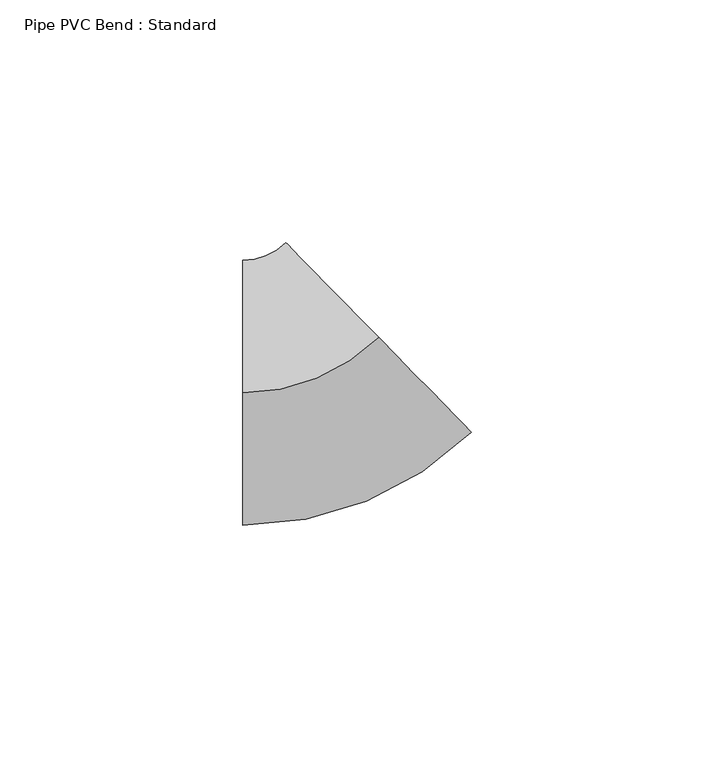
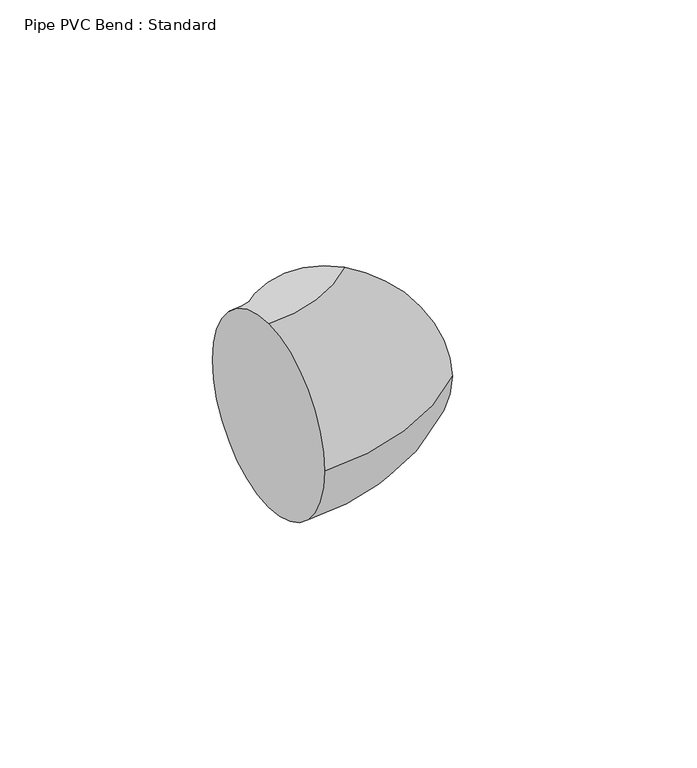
"""IFC4 building model written with IfcOpenShell, lengths in millimetres: pipe fitting geometry, Pipe PVC Bend : Standard."""

from ifc_helpers import new_model, si_unit, point, frame, origin, place, context, project, spatial, circle_curve, ellipse_curve, trimmed, source, transform, mapped, element, save
from ifc_brep_helpers import plane_surface, revolved_surface, advanced_brep


def pipe_pvc_bend_standard_81afda98(model_context):
    return source(origin(), model_context, "Body", "AdvancedBrep", [
        advanced_brep(
        [(-16.3271207, 0.0, 27.305), (-16.3271207, 27.305, 0.0), (-16.3271207, 0.0, -27.305), (-16.3271207, -27.305, 0.0), (11.6646048, 11.424179, 27.305), (30.7700682, -8.0833654, 0.0), (11.6646048, 11.424179, -27.305), (-7.4408587, 30.9317235, 0.0)],
        [
            (0, 1, circle_curve(frame((-16.3271207, 0.0, 0.0), z_axis=(-1.0, 0.0, 0.0), x_axis=(0.0, 1.0, 0.0)), 27.305)),
            (1, 2, circle_curve(frame((-16.3271207, 0.0, 0.0), z_axis=(-1.0, 0.0, 0.0), x_axis=(0.0, 1.0, 0.0)), 27.305)),
            (2, 3, circle_curve(frame((-16.3271207, 0.0, 0.0), z_axis=(-1.0, 0.0, 0.0), x_axis=(0.0, 1.0, 0.0)), 27.305)),
            (3, 0, circle_curve(frame((-16.3271207, 0.0, 0.0), z_axis=(-1.0, 0.0, 0.0), x_axis=(0.0, 1.0, 0.0)), 27.305)),
            (4, 5, circle_curve(frame((11.6646048, 11.424179, 0.0), z_axis=(0.7144312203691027, 0.6997056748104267, 0.0), x_axis=(-0.6997056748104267, 0.7144312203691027, 0.0)), 27.305)),
            (5, 6, circle_curve(frame((11.6646048, 11.424179, 0.0), z_axis=(0.7144312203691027, 0.6997056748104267, 0.0), x_axis=(-0.6997056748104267, 0.7144312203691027, 0.0)), 27.305)),
            (6, 7, circle_curve(frame((11.6646048, 11.424179, 0.0), z_axis=(0.7144312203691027, 0.6997056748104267, 0.0), x_axis=(-0.6997056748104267, 0.7144312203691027, 0.0)), 27.305)),
            (7, 4, circle_curve(frame((11.6646048, 11.424179, 0.0), z_axis=(0.7144312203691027, 0.6997056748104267, 0.0), x_axis=(-0.6997056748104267, 0.7144312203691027, 0.0)), 27.305)),
            (7, 1, circle_curve(frame((-16.3271207, 40.005, 0.0), z_axis=(0.0, 0.0, -1.0), x_axis=(0.0, -1.0, 0.0)), 12.7)),
            (0, 4, circle_curve(frame((-16.3271207, 40.005, 27.305), z_axis=(0.0, 0.0, 1.0), x_axis=(0.0, -1.0, 0.0)), 40.005)),
            (6, 2, circle_curve(frame((-16.3271207, 40.005, -27.305), z_axis=(0.0, 0.0, -1.0), x_axis=(0.0, -1.0, 0.0)), 40.005)),
            (5, 3, circle_curve(frame((-16.3271207, 40.005, 0.0), z_axis=(0.0, 0.0, -1.0), x_axis=(0.0, -1.0, 0.0)), 67.31)),
        ],
        [
            plane_surface(frame((-16.3271207, 0.0, 0.0), z_axis=(-1.0, 0.0, 0.0), x_axis=(0.0, 0.0, 1.0))),
            plane_surface(frame((11.6646048, 11.424179, 0.0), z_axis=(0.7144312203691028, 0.6997056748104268, 0.0), x_axis=(0.0, 0.0, 1.0))),
            revolved_surface(trimmed(ellipse_curve(frame((-16.3271207, 0.0, 0.0), z_axis=(-1.0, 0.0, 0.0), x_axis=(0.0, 1.0, 0.0)), 27.305, 27.305), [point((-16.3271207, 0.0, 27.305))], [point((-16.3271207, 27.305, 0.0))], True, "CARTESIAN"), (-16.3271207, 40.005, 0.0), (0.0, 0.0, 1.0)),
            revolved_surface(trimmed(ellipse_curve(frame((-16.3271207, 0.0, 0.0), z_axis=(-1.0, 0.0, 0.0), x_axis=(0.0, 1.0, 0.0)), 27.305, 27.305), [point((-16.3271207, 27.305, 0.0))], [point((-16.3271207, 0.0, -27.305))], True, "CARTESIAN"), (-16.3271207, 40.005, 0.0), (0.0, 0.0, 1.0)),
            revolved_surface(trimmed(ellipse_curve(frame((-16.3271207, 0.0, 0.0), z_axis=(-1.0, 0.0, 0.0), x_axis=(0.0, 1.0, 0.0)), 27.305, 27.305), [point((-16.3271207, 0.0, -27.305))], [point((-16.3271207, -27.305, 0.0))], True, "CARTESIAN"), (-16.3271207, 40.005, 0.0), (0.0, 0.0, 1.0)),
            revolved_surface(trimmed(ellipse_curve(frame((-16.3271207, 0.0, 0.0), z_axis=(-1.0, 0.0, 0.0), x_axis=(0.0, 1.0, 0.0)), 27.305, 27.305), [point((-16.3271207, -27.305, 0.0))], [point((-16.3271207, 0.0, 27.305))], True, "CARTESIAN"), (-16.3271207, 40.005, 0.0), (0.0, 0.0, 1.0)),
        ],
        [
            (0, [[1, 2, 3, 4]]),
            (1, [[5, 6, 7, 8]]),
            (2, [[9, -1, 10, -8]]),
            (3, [[11, -2, -9, -7]]),
            (4, [[12, -3, -11, -6]]),
            (5, [[-10, -4, -12, -5]]),
        ],
    ),
        advanced_brep(
        [(-16.3271207, 0.0, 27.305), (-16.3271207, 27.305, 0.0), (-16.3271207, 0.0, -27.305), (-16.3271207, -27.305, 0.0), (11.6646048, 11.424179, 27.305), (30.7700682, -8.0833654, 0.0), (11.6646048, 11.424179, -27.305), (-7.4408587, 30.9317235, 0.0)],
        [
            (0, 1, circle_curve(frame((-16.3271207, 0.0, 0.0), z_axis=(-1.0, 0.0, 0.0), x_axis=(0.0, 1.0, 0.0)), 27.305)),
            (1, 2, circle_curve(frame((-16.3271207, 0.0, 0.0), z_axis=(-1.0, 0.0, 0.0), x_axis=(0.0, 1.0, 0.0)), 27.305)),
            (2, 3, circle_curve(frame((-16.3271207, 0.0, 0.0), z_axis=(-1.0, 0.0, 0.0), x_axis=(0.0, 1.0, 0.0)), 27.305)),
            (3, 0, circle_curve(frame((-16.3271207, 0.0, 0.0), z_axis=(-1.0, 0.0, 0.0), x_axis=(0.0, 1.0, 0.0)), 27.305)),
            (4, 5, circle_curve(frame((11.6646048, 11.424179, 0.0), z_axis=(0.7144312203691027, 0.6997056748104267, 0.0), x_axis=(-0.6997056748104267, 0.7144312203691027, 0.0)), 27.305)),
            (5, 6, circle_curve(frame((11.6646048, 11.424179, 0.0), z_axis=(0.7144312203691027, 0.6997056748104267, 0.0), x_axis=(-0.6997056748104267, 0.7144312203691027, 0.0)), 27.305)),
            (6, 7, circle_curve(frame((11.6646048, 11.424179, 0.0), z_axis=(0.7144312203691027, 0.6997056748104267, 0.0), x_axis=(-0.6997056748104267, 0.7144312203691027, 0.0)), 27.305)),
            (7, 4, circle_curve(frame((11.6646048, 11.424179, 0.0), z_axis=(0.7144312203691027, 0.6997056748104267, 0.0), x_axis=(-0.6997056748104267, 0.7144312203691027, 0.0)), 27.305)),
            (7, 1, circle_curve(frame((-16.3271207, 40.005, 0.0), z_axis=(0.0, 0.0, -1.0), x_axis=(0.0, -1.0, 0.0)), 12.7)),
            (0, 4, circle_curve(frame((-16.3271207, 40.005, 27.305), z_axis=(0.0, 0.0, 1.0), x_axis=(0.0, -1.0, 0.0)), 40.005)),
            (6, 2, circle_curve(frame((-16.3271207, 40.005, -27.305), z_axis=(0.0, 0.0, -1.0), x_axis=(0.0, -1.0, 0.0)), 40.005)),
            (5, 3, circle_curve(frame((-16.3271207, 40.005, 0.0), z_axis=(0.0, 0.0, -1.0), x_axis=(0.0, -1.0, 0.0)), 67.31)),
        ],
        [
            plane_surface(frame((-16.3271207, 0.0, 0.0), z_axis=(-1.0, 0.0, 0.0), x_axis=(0.0, 0.0, 1.0))),
            plane_surface(frame((11.6646048, 11.424179, 0.0), z_axis=(0.7144312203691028, 0.6997056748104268, 0.0), x_axis=(0.0, 0.0, 1.0))),
            revolved_surface(trimmed(ellipse_curve(frame((-16.3271207, 0.0, 0.0), z_axis=(-1.0, 0.0, 0.0), x_axis=(0.0, 1.0, 0.0)), 27.305, 27.305), [point((-16.3271207, 0.0, 27.305))], [point((-16.3271207, 27.305, 0.0))], True, "CARTESIAN"), (-16.3271207, 40.005, 0.0), (0.0, 0.0, 1.0)),
            revolved_surface(trimmed(ellipse_curve(frame((-16.3271207, 0.0, 0.0), z_axis=(-1.0, 0.0, 0.0), x_axis=(0.0, 1.0, 0.0)), 27.305, 27.305), [point((-16.3271207, 27.305, 0.0))], [point((-16.3271207, 0.0, -27.305))], True, "CARTESIAN"), (-16.3271207, 40.005, 0.0), (0.0, 0.0, 1.0)),
            revolved_surface(trimmed(ellipse_curve(frame((-16.3271207, 0.0, 0.0), z_axis=(-1.0, 0.0, 0.0), x_axis=(0.0, 1.0, 0.0)), 27.305, 27.305), [point((-16.3271207, 0.0, -27.305))], [point((-16.3271207, -27.305, 0.0))], True, "CARTESIAN"), (-16.3271207, 40.005, 0.0), (0.0, 0.0, 1.0)),
            revolved_surface(trimmed(ellipse_curve(frame((-16.3271207, 0.0, 0.0), z_axis=(-1.0, 0.0, 0.0), x_axis=(0.0, 1.0, 0.0)), 27.305, 27.305), [point((-16.3271207, -27.305, 0.0))], [point((-16.3271207, 0.0, 27.305))], True, "CARTESIAN"), (-16.3271207, 40.005, 0.0), (0.0, 0.0, 1.0)),
        ],
        [
            (0, [[1, 2, 3, 4]]),
            (1, [[5, 6, 7, 8]]),
            (2, [[9, -1, 10, -8]]),
            (3, [[11, -2, -9, -7]]),
            (4, [[12, -3, -11, -6]]),
            (5, [[-10, -4, -12, -5]]),
        ],
    ),
    ])


if __name__ == "__main__":
    model = new_model("IFC4")
    model_context = context("Model", 3, world=origin())
    ifc_project = project(units=[si_unit("LENGTHUNIT", "METRE", prefix="MILLI")], contexts=[model_context])
    site = spatial("IfcSite", under=ifc_project)
    building = spatial("IfcBuilding", under=site)
    placement = place(None, origin())
    pipe_pvc_bend_standard_shape = pipe_pvc_bend_standard_81afda98(model_context)
    element("IfcPipeFitting", 1, ObjectType="Pipe PVC Bend : Standard", at=placement, inside=building, context=model_context, shape_type="MappedRepresentation", body=[
        mapped(pipe_pvc_bend_standard_shape, transform((0.0, 0.0, 0.0), x_axis=(1.0, 0.0, 0.0), y_axis=(0.0, 1.0, 0.0), z_axis=(0.0, 0.0, 1.0))),
    ])
    save(model, "model.ifc")
